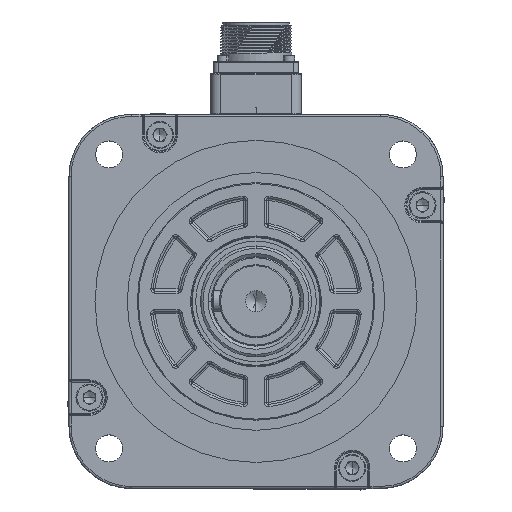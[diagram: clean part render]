
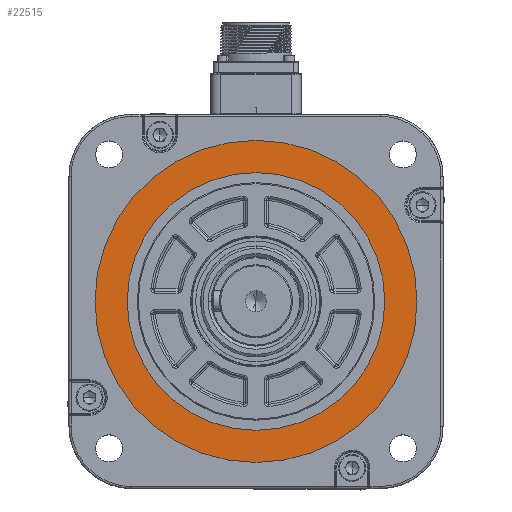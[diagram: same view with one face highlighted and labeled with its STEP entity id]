
A CAD part, top view. The second image highlights one B-rep face of the part: STEP entity #22515.
In plain terms, the highlighted planar face has unit normal (0, 0, 1) as drawn and (0, 0, -1) by its records, which use the part's own axes.
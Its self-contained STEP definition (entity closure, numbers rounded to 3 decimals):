
#4031 = DIRECTION ( 'NONE',  ( -1., 0., 0. ) ) ;
#5611 = EDGE_LOOP ( 'NONE', ( #125517, #110122 ) ) ;
#7061 = VERTEX_POINT ( 'NONE', #68951 ) ;
#8229 = CARTESIAN_POINT ( 'NONE',  ( 0., 0., 1.5 ) ) ;
#9703 = DIRECTION ( 'NONE',  ( -1., 0., 0. ) ) ;
#22515 = ADVANCED_FACE ( 'NONE', ( #63564, #105331 ), #91470, .T. ) ;
#24749 = EDGE_CURVE ( 'NONE', #68414, #109422, #80565, .T. ) ;
#26506 = AXIS2_PLACEMENT_3D ( 'NONE', #105791, #94642, #140214 ) ;
#27049 = VERTEX_POINT ( 'NONE', #44582 ) ;
#32520 = AXIS2_PLACEMENT_3D ( 'NONE', #8229, #114184, #9703 ) ;
#34729 = EDGE_LOOP ( 'NONE', ( #126995, #97666 ) ) ;
#36530 = CIRCLE ( 'NONE', #133117, 77.5 ) ;
#36778 = AXIS2_PLACEMENT_3D ( 'NONE', #63905, #74102, #4031 ) ;
#41918 = EDGE_CURVE ( 'NONE', #109422, #68414, #36530, .T. ) ;
#44582 = CARTESIAN_POINT ( 'NONE',  ( 62., 0., 1.5 ) ) ;
#63564 = FACE_OUTER_BOUND ( 'NONE', #5611, .T. ) ;
#63905 = CARTESIAN_POINT ( 'NONE',  ( 0., 0., 1.5 ) ) ;
#64484 = AXIS2_PLACEMENT_3D ( 'NONE', #134350, #76687, #110601 ) ;
#68414 = VERTEX_POINT ( 'NONE', #121004 ) ;
#68951 = CARTESIAN_POINT ( 'NONE',  ( -62., 0., 1.5 ) ) ;
#74102 = DIRECTION ( 'NONE',  ( 0., 0., -1. ) ) ;
#76687 = DIRECTION ( 'NONE',  ( 0., 0., 1. ) ) ;
#79137 = CARTESIAN_POINT ( 'NONE',  ( 77.5, 0., 1.5 ) ) ;
#80565 = CIRCLE ( 'NONE', #36778, 77.5 ) ;
#91470 = PLANE ( 'NONE',  #32520 ) ;
#94642 = DIRECTION ( 'NONE',  ( 0., 0., 1. ) ) ;
#97666 = ORIENTED_EDGE ( 'NONE', *, *, #150382, .T. ) ;
#105331 = FACE_BOUND ( 'NONE', #34729, .T. ) ;
#105791 = CARTESIAN_POINT ( 'NONE',  ( 0., 0., 1.5 ) ) ;
#107268 = DIRECTION ( 'NONE',  ( 0., 0., -1. ) ) ;
#107653 = EDGE_CURVE ( 'NONE', #7061, #27049, #127102, .T. ) ;
#109422 = VERTEX_POINT ( 'NONE', #79137 ) ;
#110122 = ORIENTED_EDGE ( 'NONE', *, *, #41918, .T. ) ;
#110601 = DIRECTION ( 'NONE',  ( -1., 0., 0. ) ) ;
#114184 = DIRECTION ( 'NONE',  ( 0., 0., -1. ) ) ;
#120355 = DIRECTION ( 'NONE',  ( -1., 0., 0. ) ) ;
#121004 = CARTESIAN_POINT ( 'NONE',  ( -77.5, 0., 1.5 ) ) ;
#125517 = ORIENTED_EDGE ( 'NONE', *, *, #24749, .T. ) ;
#126995 = ORIENTED_EDGE ( 'NONE', *, *, #107653, .T. ) ;
#127102 = CIRCLE ( 'NONE', #26506, 62. ) ;
#133117 = AXIS2_PLACEMENT_3D ( 'NONE', #141674, #107268, #120355 ) ;
#134350 = CARTESIAN_POINT ( 'NONE',  ( 0., 0., 1.5 ) ) ;
#140214 = DIRECTION ( 'NONE',  ( -1., 0., 0. ) ) ;
#141674 = CARTESIAN_POINT ( 'NONE',  ( 0., 0., 1.5 ) ) ;
#149446 = CIRCLE ( 'NONE', #64484, 62. ) ;
#150382 = EDGE_CURVE ( 'NONE', #27049, #7061, #149446, .T. ) ;
